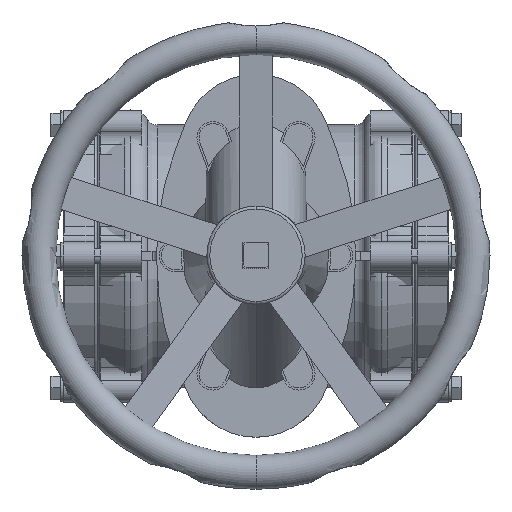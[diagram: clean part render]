
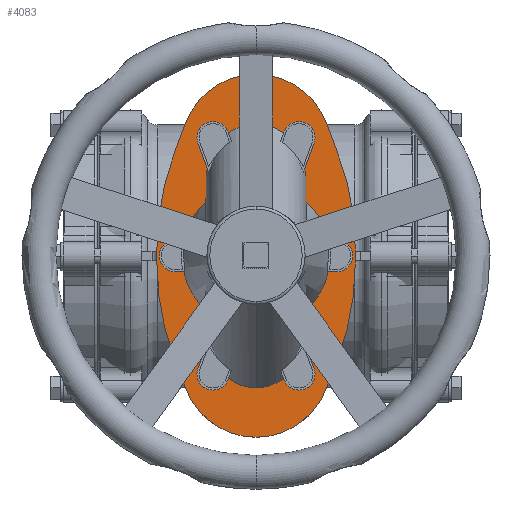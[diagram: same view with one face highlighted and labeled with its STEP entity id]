
A CAD part, top view. The second image highlights one B-rep face of the part: STEP entity #4083.
In plain terms, the highlighted planar face has unit normal (0, 0, 1).
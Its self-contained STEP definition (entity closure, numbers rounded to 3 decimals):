
#4083=ADVANCED_FACE('',(#7544),#7545,.T.);
#7544=FACE_OUTER_BOUND('',#11346,.T.);
#7545=PLANE('',#11347);
#11346=EDGE_LOOP('',(#19215,#19216,#19217,#19218,#19219,#19220,#19221,#19222,#19223,#19224,#19225,#19226,#19227,#19228));
#11347=AXIS2_PLACEMENT_3D('',#19229,#19230,#19231);
#19215=ORIENTED_EDGE('',*,*,#20636,.F.);
#19216=ORIENTED_EDGE('',*,*,#21063,.F.);
#19217=ORIENTED_EDGE('',*,*,#23099,.F.);
#19218=ORIENTED_EDGE('',*,*,#22027,.F.);
#19219=ORIENTED_EDGE('',*,*,#20531,.F.);
#19220=ORIENTED_EDGE('',*,*,#23246,.F.);
#19221=ORIENTED_EDGE('',*,*,#22724,.F.);
#19222=ORIENTED_EDGE('',*,*,#21489,.F.);
#19223=ORIENTED_EDGE('',*,*,#23609,.F.);
#19224=ORIENTED_EDGE('',*,*,#23610,.F.);
#19225=ORIENTED_EDGE('',*,*,#22811,.F.);
#19226=ORIENTED_EDGE('',*,*,#22228,.F.);
#19227=ORIENTED_EDGE('',*,*,#23611,.F.);
#19228=ORIENTED_EDGE('',*,*,#22804,.F.);
#19229=CARTESIAN_POINT('',(55.049,0.001,338.0));
#19230=DIRECTION('',(0.0,0.0,1.0));
#19231=DIRECTION('',(1.0,0.0,0.0));
#20531=EDGE_CURVE('',#23985,#23981,#23987,.T.);
#20636=EDGE_CURVE('',#24174,#24175,#24176,.T.);
#21063=EDGE_CURVE('',#24905,#24174,#24906,.T.);
#21489=EDGE_CURVE('',#25612,#25613,#25614,.T.);
#22027=EDGE_CURVE('',#23981,#26465,#26466,.T.);
#22228=EDGE_CURVE('',#26762,#26757,#26764,.T.);
#22724=EDGE_CURVE('',#25613,#27426,#27428,.T.);
#22804=EDGE_CURVE('',#24175,#27523,#27525,.T.);
#22811=EDGE_CURVE('',#26757,#27533,#27534,.T.);
#23099=EDGE_CURVE('',#26465,#24905,#27903,.T.);
#23246=EDGE_CURVE('',#27426,#23985,#28085,.T.);
#23609=EDGE_CURVE('',#28491,#25612,#28492,.T.);
#23610=EDGE_CURVE('',#27533,#28491,#28493,.T.);
#23611=EDGE_CURVE('',#27523,#26762,#28494,.T.);
#23981=VERTEX_POINT('',#28920);
#23985=VERTEX_POINT('',#28925);
#23987=CIRCLE('',#28928,271.31);
#24174=VERTEX_POINT('',#29159);
#24175=VERTEX_POINT('',#29160);
#24176=LINE('',#29161,#29162);
#24905=VERTEX_POINT('',#30142);
#24906=CIRCLE('',#30143,77.985);
#25612=VERTEX_POINT('',#31057);
#25613=VERTEX_POINT('',#31058);
#25614=LINE('',#31059,#31060);
#26465=VERTEX_POINT('',#32185);
#26466=CIRCLE('',#32186,271.31);
#26757=VERTEX_POINT('',#32602);
#26762=VERTEX_POINT('',#32608);
#26764=CIRCLE('',#32611,283.766);
#27426=VERTEX_POINT('',#33595);
#27428=CIRCLE('',#33598,271.3);
#27523=VERTEX_POINT('',#33719);
#27525=CIRCLE('',#33722,283.766);
#27533=VERTEX_POINT('',#33732);
#27534=CIRCLE('',#33733,283.766);
#27903=LINE('',#34238,#34239);
#28085=CIRCLE('',#34501,271.3);
#28491=VERTEX_POINT('',#35019);
#28492=CIRCLE('',#35020,77.985);
#28493=LINE('',#35021,#35022);
#28494=CIRCLE('',#35023,283.766);
#28920=CARTESIAN_POINT('',(158.036,-8.821,338.0));
#28925=CARTESIAN_POINT('',(157.892,0.0,338.0));
#28928=AXIS2_PLACEMENT_3D('',#35368,#35369,#35370);
#29159=CARTESIAN_POINT('',(-17.961,-137.997,338.0));
#29160=CARTESIAN_POINT('',(-29.718,-106.82,338.0));
#29161=CARTESIAN_POINT('',(-29.718,-106.82,338.0));
#29162=VECTOR('',#35532,1.0);
#30142=CARTESIAN_POINT('',(127.98,-137.977,338.0));
#30143=AXIS2_PLACEMENT_3D('',#36134,#36135,#36136);
#31057=CARTESIAN_POINT('',(127.971,138.001,338.0));
#31058=CARTESIAN_POINT('',(139.729,106.824,338.0));
#31059=CARTESIAN_POINT('',(139.729,106.824,338.0));
#31060=VECTOR('',#36708,1.0);
#32185=CARTESIAN_POINT('',(139.718,-106.82,338.0));
#32186=AXIS2_PLACEMENT_3D('',#37454,#37455,#37456);
#32602=CARTESIAN_POINT('',(-47.971,6.69,338.0));
#32608=CARTESIAN_POINT('',(-47.892,0.,338.0));
#32611=AXIS2_PLACEMENT_3D('',#37683,#37684,#37685);
#33595=CARTESIAN_POINT('',(158.037,8.851,338.0));
#33598=AXIS2_PLACEMENT_3D('',#38253,#38254,#38255);
#33719=CARTESIAN_POINT('',(-47.971,-6.69,338.0));
#33722=AXIS2_PLACEMENT_3D('',#38358,#38359,#38360);
#33732=CARTESIAN_POINT('',(-29.718,106.82,338.0));
#33733=AXIS2_PLACEMENT_3D('',#38366,#38367,#38368);
#34238=CARTESIAN_POINT('',(127.98,-137.977,338.0));
#34239=VECTOR('',#38676,1.0);
#34501=AXIS2_PLACEMENT_3D('',#38835,#38836,#38837);
#35019=CARTESIAN_POINT('',(-17.961,137.997,338.0));
#35020=AXIS2_PLACEMENT_3D('',#39151,#39152,#39153);
#35021=CARTESIAN_POINT('',(-17.961,137.997,338.0));
#35022=VECTOR('',#39154,1.0);
#35023=AXIS2_PLACEMENT_3D('',#39155,#39156,#39157);
#35368=CARTESIAN_POINT('',(-113.275,-8.821,338.0));
#35369=DIRECTION('',(0.0,0.0,-1.0));
#35370=DIRECTION('',(1.0,0.0,0.0));
#35532=DIRECTION('',(-0.353,0.936,0.0));
#36134=CARTESIAN_POINT('',(55.006,-110.473,338.0));
#36135=DIRECTION('',(0.0,0.0,-1.0));
#36136=DIRECTION('',(1.0,0.0,0.0));
#36708=DIRECTION('',(0.353,-0.936,0.0));
#37454=CARTESIAN_POINT('',(-113.275,-8.821,338.0));
#37455=DIRECTION('',(0.0,0.0,-1.0));
#37456=DIRECTION('',(1.0,0.0,0.0));
#37683=CARTESIAN_POINT('',(235.795,6.69,338.0));
#37684=DIRECTION('',(0.0,0.0,-1.0));
#37685=DIRECTION('',(1.0,0.0,0.0));
#38253=CARTESIAN_POINT('',(-113.264,8.851,338.0));
#38254=DIRECTION('',(0.0,0.0,-1.0));
#38255=DIRECTION('',(1.0,0.0,0.0));
#38358=CARTESIAN_POINT('',(235.795,-6.69,338.0));
#38359=DIRECTION('',(0.0,0.0,-1.0));
#38360=DIRECTION('',(1.0,0.0,0.0));
#38366=CARTESIAN_POINT('',(235.795,6.69,338.0));
#38367=DIRECTION('',(0.0,0.0,-1.0));
#38368=DIRECTION('',(1.0,0.0,0.0));
#38676=DIRECTION('',(-0.353,-0.936,-0.0));
#38835=CARTESIAN_POINT('',(-113.264,8.851,338.0));
#38836=DIRECTION('',(0.0,0.0,-1.0));
#38837=DIRECTION('',(1.0,0.0,0.0));
#39151=CARTESIAN_POINT('',(55.006,110.473,338.0));
#39152=DIRECTION('',(0.0,0.0,-1.0));
#39153=DIRECTION('',(1.0,0.0,0.0));
#39154=DIRECTION('',(0.353,0.936,0.0));
#39155=CARTESIAN_POINT('',(235.795,-6.69,338.0));
#39156=DIRECTION('',(0.0,0.0,-1.0));
#39157=DIRECTION('',(1.0,0.0,0.0));
